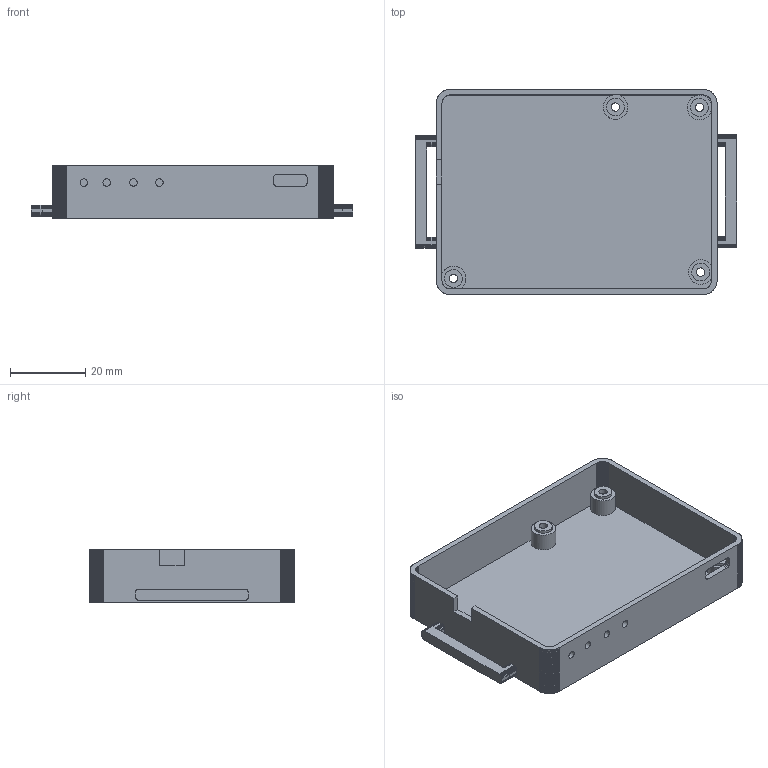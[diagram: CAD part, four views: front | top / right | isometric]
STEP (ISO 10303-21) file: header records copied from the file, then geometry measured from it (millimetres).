
FILE_DESCRIPTION(('Designed by EasyEDA Pro'),'2;1');
FILE_NAME('Open CASCADE Shape Model','2024-12-04T16:57:15',('Author'),( 'Open CASCADE'),'Open CASCADE STEP processor 7.8','Open CASCADE 7.8' ,'Unknown');
FILE_SCHEMA(('AUTOMOTIVE_DESIGN { 1 0 10303 214 1 1 1 1 }'));
Products named in the file (1): Open CASCADE STEP translator 7.8 2
Bounding box: 85.28 x 54.5 x 14.2 mm (x, y, z)
Volume: 11667.4 mm3; surface area: 16039.3 mm2
Topology: 1 solids, 1 shells, 794 faces, 2376 edges, 1592 vertices
Faces by surface type: bspline 794
Entity records: 50730 total; most frequent: CARTESIAN_POINT 19849, B_SPLINE_CURVE_WITH_KNOTS 7048, ORIENTED_EDGE 4752, PCURVE 4752, DEFINITIONAL_REPRESENTATION 4752, EDGE_CURVE 2376, SURFACE_CURVE 2360, VERTEX_POINT 1592
